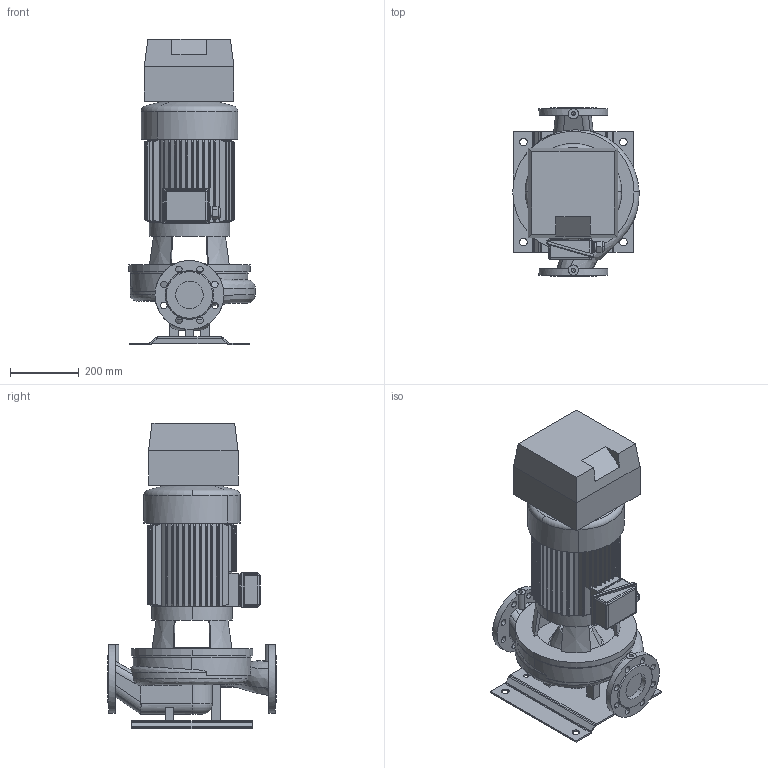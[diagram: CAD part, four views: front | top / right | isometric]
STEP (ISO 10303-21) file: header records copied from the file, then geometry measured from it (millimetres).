
FILE_DESCRIPTION(('STEP AP214'),'1');
FILE_NAME('export.stp','2018-08-09T05:19:48',(' '),(' '),'Spatial InterOp 3D',' ',' ');
FILE_SCHEMA(('AUTOMOTIVE_DESIGN { 1 0 10303 214 1 1 1 1 }'));
Length unit declared in the file: millimetre
Products named in the file (13): W_L80S4NC750KP; V_TLL50S80S; V_PPL80S; P100496; P100495; P100342; V_MOKN133; RU_OKN_133; TSUOJA_OKN_132_133; KYTKOTELO_OKN_100_133; V_MKP-133-G2-F29; V_EKF29OKN132; NC_Size2
Assembly tree (13 placements, depth 4):
  W_L80S4NC750KP
    V_TLL50S80S
    V_PPL80S
    P100496
      P100495  x2
      P100342
    V_MKP-133-G2-F29
      V_MOKN133
        RU_OKN_133
        TSUOJA_OKN_132_133
        KYTKOTELO_OKN_100_133
      V_EKF29OKN132
    NC_Size2
Bounding box: 367 x 490 x 887.5 mm (x, y, z)
Volume: 43914138.9 mm3; surface area: 2532834.7 mm2
Topology: 10 solids, 11 shells, 789 faces, 2061 edges, 1286 vertices
Faces by surface type: cylinder 339, plane 284, cone 100, bspline 42, torus 12, sphere 12
Entity records: 42639 total; most frequent: CARTESIAN_POINT 10491, ORIENTED_EDGE 4054, DIRECTION 3759, STYLED_ITEM 2210, PRESENTATION_STYLE_ASSIGNMENT 2210, COLOUR_RGB 2210, EDGE_CURVE 2027, AXIS2_PLACEMENT_3D 1500
